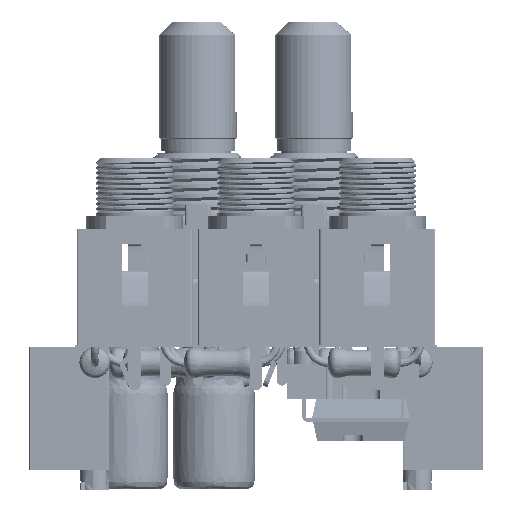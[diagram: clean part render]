
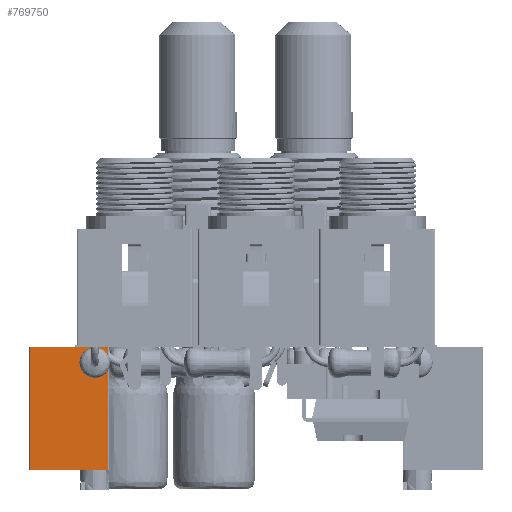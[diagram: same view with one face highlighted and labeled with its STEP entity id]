
A CAD part, front view. The second image highlights one B-rep face of the part: STEP entity #769750.
In plain terms, the highlighted planar face has unit normal (0, -1, 0) as drawn and (-1, 0, 0) by its records, which use the part's own axes.
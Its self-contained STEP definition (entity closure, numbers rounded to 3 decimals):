
#769750 = ADVANCED_FACE('',(#769751),#769765,.T.);
#769751 = FACE_BOUND('',#769752,.T.);
#769752 = EDGE_LOOP('',(#769753,#769776,#769792,#769808));
#769753 = ORIENTED_EDGE('',*,*,#769754,.T.);
#769754 = EDGE_CURVE('',#769755,#769757,#769759,.T.);
#769755 = VERTEX_POINT('',#769756);
#769756 = CARTESIAN_POINT('',(-4.765,1.05,9.485));
#769757 = VERTEX_POINT('',#769758);
#769758 = CARTESIAN_POINT('',(-4.765,1.05,0.005)
  );
#769759 = SURFACE_CURVE('',#769760,(#769764),.PCURVE_S1.);
#769760 = LINE('',#769761,#769762);
#769761 = CARTESIAN_POINT('',(-4.765,1.05,9.485));
#769762 = VECTOR('',#769763,1.);
#769763 = DIRECTION('',(0.,0.,-1.));
#769764 = PCURVE('',#769765,#769770);
#769765 = PLANE('',#769766);
#769766 = AXIS2_PLACEMENT_3D('',#769767,#769768,#769769);
#769767 = CARTESIAN_POINT('',(-4.765,-1.96,9.485));
#769768 = DIRECTION('',(-1.,0.,0.));
#769769 = DIRECTION('',(0.,0.,1.));
#769770 = DEFINITIONAL_REPRESENTATION('',(#769771),#769775);
#769771 = LINE('',#769772,#769773);
#769772 = CARTESIAN_POINT('',(0.,3.01));
#769773 = VECTOR('',#769774,1.);
#769774 = DIRECTION('',(-1.,0.));
#769775 = ( GEOMETRIC_REPRESENTATION_CONTEXT(2) 
PARAMETRIC_REPRESENTATION_CONTEXT() REPRESENTATION_CONTEXT('2D SPACE',''
  ) );
#769776 = ORIENTED_EDGE('',*,*,#769777,.T.);
#769777 = EDGE_CURVE('',#769757,#769778,#769780,.T.);
#769778 = VERTEX_POINT('',#769779);
#769779 = CARTESIAN_POINT('',(-4.765,-4.97,0.005
    ));
#769780 = SURFACE_CURVE('',#769781,(#769785),.PCURVE_S1.);
#769781 = LINE('',#769782,#769783);
#769782 = CARTESIAN_POINT('',(-4.765,1.05,0.005)
  );
#769783 = VECTOR('',#769784,1.);
#769784 = DIRECTION('',(0.,-1.,0.));
#769785 = PCURVE('',#769765,#769786);
#769786 = DEFINITIONAL_REPRESENTATION('',(#769787),#769791);
#769787 = LINE('',#769788,#769789);
#769788 = CARTESIAN_POINT('',(-9.48,3.01));
#769789 = VECTOR('',#769790,1.);
#769790 = DIRECTION('',(0.,-1.));
#769791 = ( GEOMETRIC_REPRESENTATION_CONTEXT(2) 
PARAMETRIC_REPRESENTATION_CONTEXT() REPRESENTATION_CONTEXT('2D SPACE',''
  ) );
#769792 = ORIENTED_EDGE('',*,*,#769793,.T.);
#769793 = EDGE_CURVE('',#769778,#769794,#769796,.T.);
#769794 = VERTEX_POINT('',#769795);
#769795 = CARTESIAN_POINT('',(-4.765,-4.97,9.485));
#769796 = SURFACE_CURVE('',#769797,(#769801),.PCURVE_S1.);
#769797 = LINE('',#769798,#769799);
#769798 = CARTESIAN_POINT('',(-4.765,-4.97,0.005
    ));
#769799 = VECTOR('',#769800,1.);
#769800 = DIRECTION('',(0.,0.,1.));
#769801 = PCURVE('',#769765,#769802);
#769802 = DEFINITIONAL_REPRESENTATION('',(#769803),#769807);
#769803 = LINE('',#769804,#769805);
#769804 = CARTESIAN_POINT('',(-9.48,-3.01));
#769805 = VECTOR('',#769806,1.);
#769806 = DIRECTION('',(1.,0.));
#769807 = ( GEOMETRIC_REPRESENTATION_CONTEXT(2) 
PARAMETRIC_REPRESENTATION_CONTEXT() REPRESENTATION_CONTEXT('2D SPACE',''
  ) );
#769808 = ORIENTED_EDGE('',*,*,#769809,.T.);
#769809 = EDGE_CURVE('',#769794,#769755,#769810,.T.);
#769810 = SURFACE_CURVE('',#769811,(#769815),.PCURVE_S1.);
#769811 = LINE('',#769812,#769813);
#769812 = CARTESIAN_POINT('',(-4.765,-4.97,9.485));
#769813 = VECTOR('',#769814,1.);
#769814 = DIRECTION('',(0.,1.,0.));
#769815 = PCURVE('',#769765,#769816);
#769816 = DEFINITIONAL_REPRESENTATION('',(#769817),#769821);
#769817 = LINE('',#769818,#769819);
#769818 = CARTESIAN_POINT('',(0.,-3.01));
#769819 = VECTOR('',#769820,1.);
#769820 = DIRECTION('',(0.,1.));
#769821 = ( GEOMETRIC_REPRESENTATION_CONTEXT(2) 
PARAMETRIC_REPRESENTATION_CONTEXT() REPRESENTATION_CONTEXT('2D SPACE',''
  ) );
